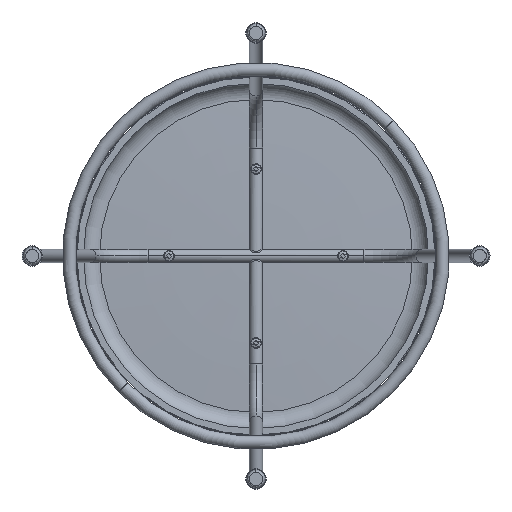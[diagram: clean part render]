
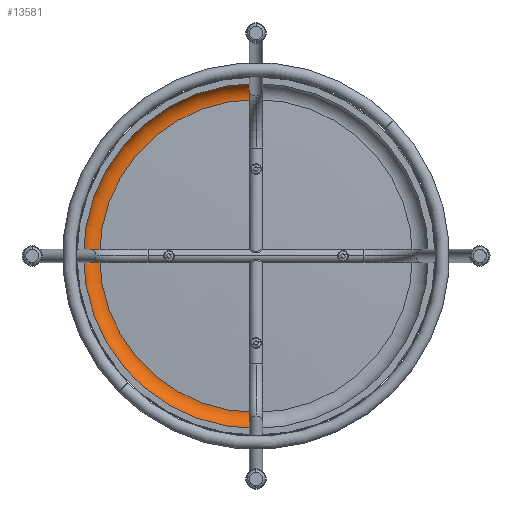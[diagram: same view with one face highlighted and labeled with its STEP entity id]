
A CAD part, front view. The second image highlights one B-rep face of the part: STEP entity #13581.
In plain terms, the highlighted toroidal (fillet/blend) face has major radius 168.241 mm and minor radius 17 mm.
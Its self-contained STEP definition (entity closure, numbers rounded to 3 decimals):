
#63 = DIRECTION ( 'NONE',  ( 0., 0., 1. ) ) ;
#179 = CIRCLE ( 'NONE', #7189, 184.5 ) ;
#737 = ORIENTED_EDGE ( 'NONE', *, *, #1557, .F. ) ;
#858 = VERTEX_POINT ( 'NONE', #9130 ) ;
#1308 = FACE_OUTER_BOUND ( 'NONE', #7443, .T. ) ;
#1409 = EDGE_CURVE ( 'NONE', #2698, #13263, #13208, .T. ) ;
#1557 = EDGE_CURVE ( 'NONE', #2698, #1961, #179, .T. ) ;
#1961 = VERTEX_POINT ( 'NONE', #13849 ) ;
#2275 = CARTESIAN_POINT ( 'NONE',  ( 0., -17.024, 168.241 ) ) ;
#2591 = DIRECTION ( 'NONE',  ( 1., 0., 0. ) ) ;
#2698 = VERTEX_POINT ( 'NONE', #13639 ) ;
#2715 = CIRCLE ( 'NONE', #12021, 17. ) ;
#2746 = DIRECTION ( 'NONE',  ( 0., 1., 0. ) ) ;
#3158 = EDGE_CURVE ( 'NONE', #1961, #858, #2715, .T. ) ;
#3592 = TOROIDAL_SURFACE ( 'NONE', #11738, 168.241, 17. ) ;
#3742 = ORIENTED_EDGE ( 'NONE', *, *, #3158, .F. ) ;
#4082 = CIRCLE ( 'NONE', #5955, 167.332 ) ;
#5955 = AXIS2_PLACEMENT_3D ( 'NONE', #12944, #2746, #8651 ) ;
#6797 = CARTESIAN_POINT ( 'NONE',  ( 0., -0.048, -167.332 ) ) ;
#7189 = AXIS2_PLACEMENT_3D ( 'NONE', #11605, #10526, #11674 ) ;
#7443 = EDGE_LOOP ( 'NONE', ( #737, #9015, #11276, #3742 ) ) ;
#7985 = EDGE_CURVE ( 'NONE', #13263, #858, #4082, .T. ) ;
#7999 = CARTESIAN_POINT ( 'NONE',  ( 0., -17.024, -168.241 ) ) ;
#8651 = DIRECTION ( 'NONE',  ( 0., 0., 1. ) ) ;
#9015 = ORIENTED_EDGE ( 'NONE', *, *, #1409, .T. ) ;
#9130 = CARTESIAN_POINT ( 'NONE',  ( 0., -0.048, 167.332 ) ) ;
#10526 = DIRECTION ( 'NONE',  ( 0., 1., 0. ) ) ;
#10670 = AXIS2_PLACEMENT_3D ( 'NONE', #7999, #2591, #11499 ) ;
#11276 = ORIENTED_EDGE ( 'NONE', *, *, #7985, .T. ) ;
#11499 = DIRECTION ( 'NONE',  ( 0., 0., -1. ) ) ;
#11605 = CARTESIAN_POINT ( 'NONE',  ( 0., -12.058, 0. ) ) ;
#11674 = DIRECTION ( 'NONE',  ( 0., 0., 1. ) ) ;
#11738 = AXIS2_PLACEMENT_3D ( 'NONE', #13407, #12534, #63 ) ;
#12021 = AXIS2_PLACEMENT_3D ( 'NONE', #2275, #12556, #13504 ) ;
#12534 = DIRECTION ( 'NONE',  ( 0., 1., 0. ) ) ;
#12556 = DIRECTION ( 'NONE',  ( -1., 0., 0. ) ) ;
#12944 = CARTESIAN_POINT ( 'NONE',  ( 0., -0.048, 0. ) ) ;
#13208 = CIRCLE ( 'NONE', #10670, 17. ) ;
#13263 = VERTEX_POINT ( 'NONE', #6797 ) ;
#13407 = CARTESIAN_POINT ( 'NONE',  ( 0., -17.024, 0. ) ) ;
#13504 = DIRECTION ( 'NONE',  ( 0., 0., 1. ) ) ;
#13581 = ADVANCED_FACE ( 'NONE', ( #1308 ), #3592, .F. ) ;
#13639 = CARTESIAN_POINT ( 'NONE',  ( 0., -12.058, -184.5 ) ) ;
#13849 = CARTESIAN_POINT ( 'NONE',  ( 0., -12.058, 184.5 ) ) ;
